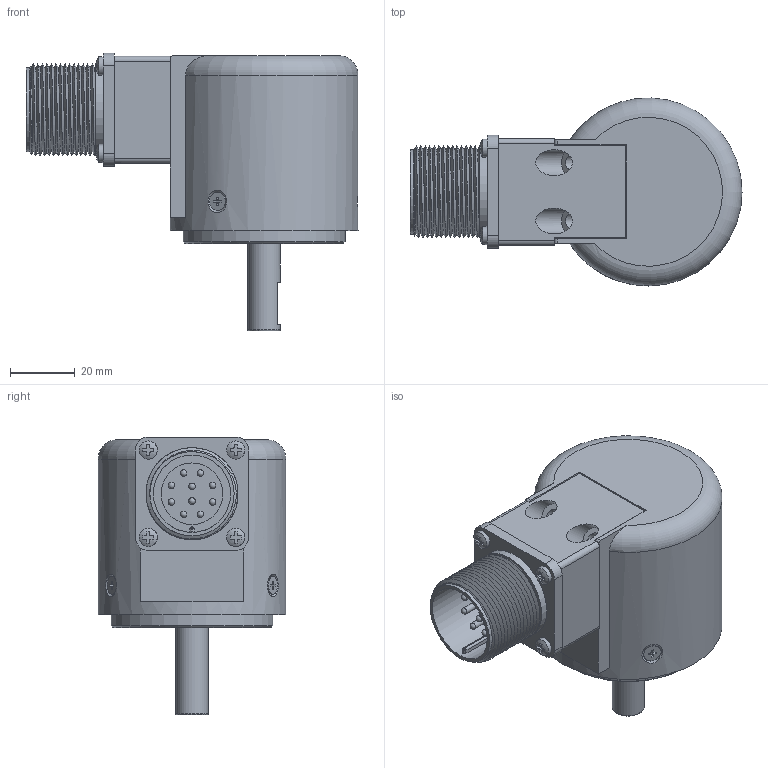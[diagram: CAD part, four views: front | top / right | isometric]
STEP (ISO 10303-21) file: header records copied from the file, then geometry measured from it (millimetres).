
FILE_DESCRIPTION( ( 'Unknown' ), '1' );
FILE_NAME( 'C:/Users/malfermoa/Desktop/step/EL_58H_albero 10 X uscita MR.stp', 'Unknown', ( 'Unknown' ), ( 'Unknown' ), 'PSStep 15.0.49', 'Unknown', ' ' );
FILE_SCHEMA( ( 'AUTOMOTIVE_DESIGN { 1 0 10303 214 1 1 1 1 }' ) );
Length unit declared in the file: millimetre
Products named in the file (11): 41320317F1
Bounding box: 102.5 x 58 x 85.8 mm (x, y, z)
Volume: 105929.6 mm3; surface area: 55394.5 mm2
Topology: 11 solids, 20 shells, 568 faces, 1469 edges, 958 vertices
Faces by surface type: plane 251, cylinder 202, bspline 48, cone 30, sphere 22, torus 15
Full cylindrical faces by diameter (mm): 2 x22, 2.05 x2, 2.2 x12, 2.5 x10, 2.6 x10, 3 x4, 3.5 x3, 4.134 x3, 4.5 x2, 5.6 x7, 6 x1, 7 x1, 8 x2, 10 x10, 10.5 x1, 11 x1, 12 x1, 13.8 x1, 14.5 x2, 19 x1, 21.2 x2, 21.998 x2, 22 x2, 23 x1, 23.9 x1, 25.2 x1, 26 x18, 28.4 x1, 28.5 x1, 49.6 x1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
Entity records: 32957 total; most frequent: CARTESIAN_POINT 17380, DIRECTION 2156, ORIENTED_EDGE 2148, EDGE_CURVE 1074, AXIS2_PLACEMENT_3D 827, VERTEX_POINT 803, EDGE_LOOP 754, FACE_OUTER_BOUND 637
